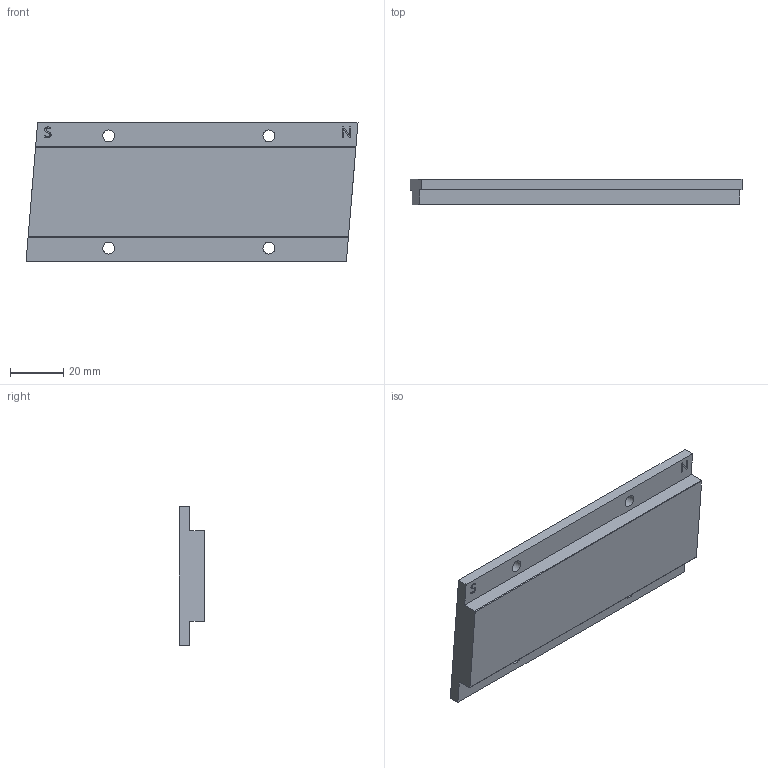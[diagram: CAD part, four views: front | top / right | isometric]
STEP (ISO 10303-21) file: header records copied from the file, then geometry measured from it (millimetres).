
FILE_DESCRIPTION( ( 'Unknown' ), '1' );
FILE_NAME( 'C:/Users/gyt/Desktop/电机制造图/DPD/DPD修改/官网3D/DPD56M120.stp', 'Unknown', ( 'Unknown' ), ( 'Unknown' ), 'PSStep 17.0.49', 'Unknown', ' ' );
FILE_SCHEMA( ( 'AUTOMOTIVE_DESIGN { 1 0 10303 214 1 1 1 1 }' ) );
Length unit declared in the file: millimetre
Products named in the file (1): 1
Bounding box: 124.37 x 9.6 x 52 mm (x, y, z)
Volume: 47416.4 mm3; surface area: 15664.2 mm2
Topology: 1 solids, 1 shells, 34 faces, 90 edges, 60 vertices
Faces by surface type: plane 22, extrusion 6, cylinder 6
Full cylindrical faces by diameter (mm): 4.5 x4
Entity records: 1563 total; most frequent: CARTESIAN_POINT 478, ORIENTED_EDGE 172, DIRECTION 130, EDGE_CURVE 86, VERTEX_POINT 60, EDGE_LOOP 48, VECTOR 48, LINE 42
